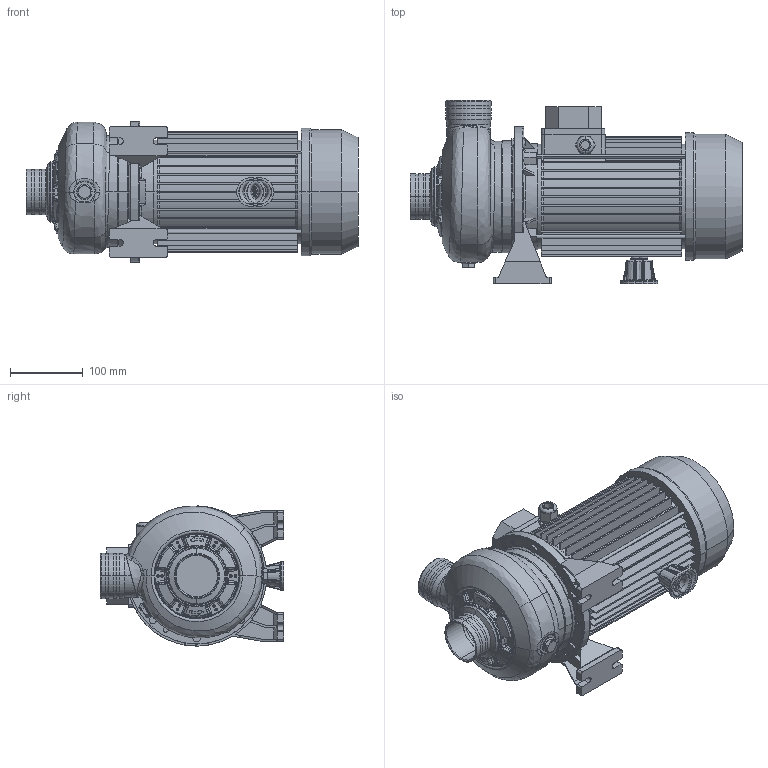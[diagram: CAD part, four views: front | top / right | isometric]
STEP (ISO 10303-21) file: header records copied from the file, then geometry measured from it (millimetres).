
FILE_DESCRIPTION((''),'2;1');
FILE_NAME('DWC_N_500_3_IE2_ASM','2011-06-27T',('Utente'),('"Ebara Pumps Europe +39.444.706811"'),'PRO/ENGINEER BY PARAMETRIC TECHNOLOGY CORPORATION, 2009360','PRO/ENGINEER BY PARAMETRIC TECHNOLOGY CORPORATION, 2009360','');
FILE_SCHEMA(('AUTOMOTIVE_DESIGN { 1 0 10303 214 1 1 1 1 }'));
Length unit declared in the file: millimetre
Products named in the file (12): MEC_90X140_IE2; 80598; 251420991; 10054; 76006; 40032; 10192; 62077; 20107_ASM; 72012; 360610016; DWC_N_500_3_IE2_ASM
Assembly tree (15 placements, depth 3):
  DWC_N_500_3_IE2_ASM
    MEC_90X140_IE2
    80598
    20107_ASM
      251420991
      10054
      76006  x2
      40032  x2
      10192
      62077
    72012  x2
    360610016  x2
Bounding box: 457 x 253 x 192.92 mm (x, y, z)
Volume: 3462375 mm3; surface area: 831212 mm2
Topology: 14 solids, 14 shells, 1800 faces, 4319 edges, 2598 vertices
Faces by surface type: plane 521, bspline 506, cylinder 308, torus 241, cone 178, sphere 42, extrusion 4
Entity records: 91273 total; most frequent: CARTESIAN_POINT 41424, ORIENTED_EDGE 7716, DIRECTION 6633, EDGE_CURVE 3858, PRESENTATION_STYLE_ASSIGNMENT 3855, STYLED_ITEM 3855, CURVE_STYLE 3846, AXIS2_PLACEMENT_3D 2738
